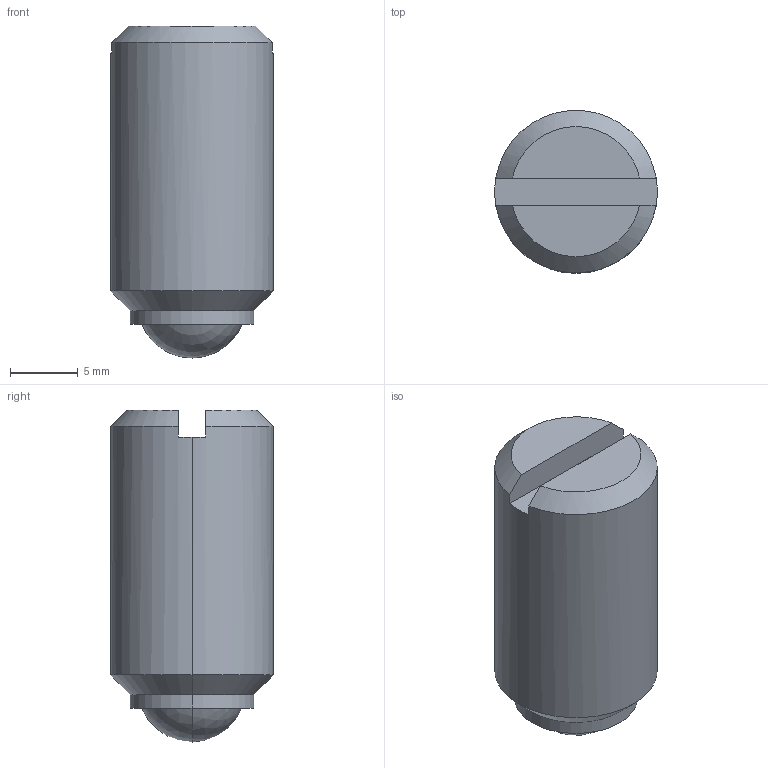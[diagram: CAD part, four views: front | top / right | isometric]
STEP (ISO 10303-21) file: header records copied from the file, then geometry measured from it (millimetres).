
FILE_DESCRIPTION (( 'STEP AP203' ), '1' );
FILE_NAME ('bsuh12.STEP', '2021-10-25T00:55:32', ( '' ), ( '' ), 'SwSTEP 2.0', 'SolidWorks 2020', '' );
FILE_SCHEMA (( 'CONFIG_CONTROL_DESIGN' ));
Length unit declared in the file: millimetre
Products named in the file (1): bsuh12
Bounding box: 12 x 12 x 24.5 mm (x, y, z)
Volume: 2395.6 mm3; surface area: 1042.2 mm2
Topology: 1 solids, 1 shells, 16 faces, 35 edges, 22 vertices
Faces by surface type: plane 6, cone 4, cylinder 4, sphere 2
Entity records: 525 total; most frequent: CARTESIAN_POINT 86, DIRECTION 82, ORIENTED_EDGE 70, EDGE_CURVE 35, AXIS2_PLACEMENT_3D 34, VERTEX_POINT 22, EDGE_LOOP 17, CIRCLE 17
